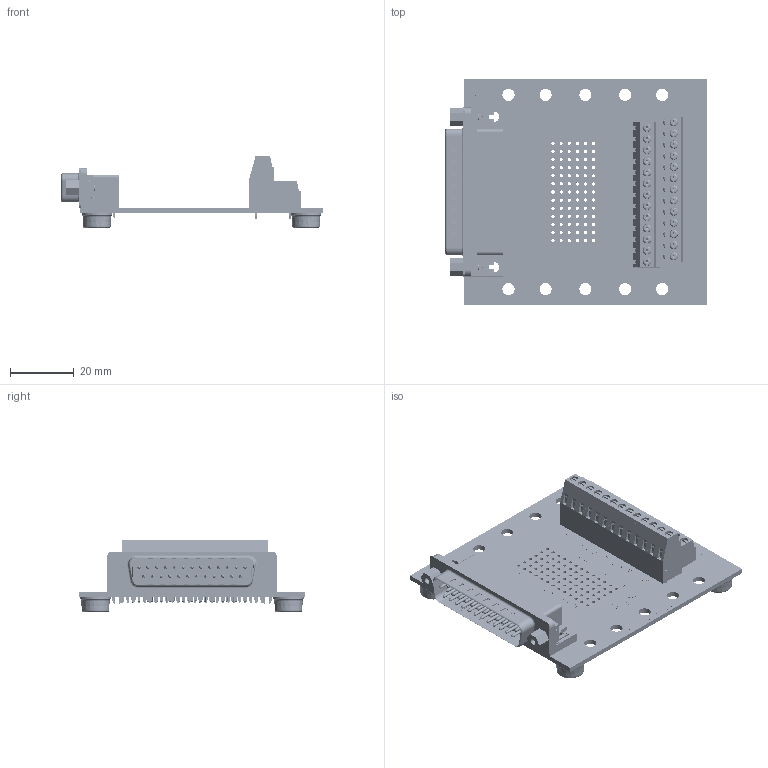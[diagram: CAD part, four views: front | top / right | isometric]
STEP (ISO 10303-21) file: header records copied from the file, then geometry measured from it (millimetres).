
FILE_DESCRIPTION (( 'STEP AP214' ), '1' );
FILE_NAME ('brkdd25m-r-ft_rev_a.step', '2019-04-29T01:05:32', ( '' ), ( '' ), 'SwSTEP 2.0', 'SolidWorks 2017', '' );
FILE_SCHEMA (( 'AUTOMOTIVE_DESIGN' ));
Length unit declared in the file: inch
Products named in the file (6): BRKDD25M Board; Male Right Angle 25 Pin; Screw Terminal Double Decker 4; Screw Terminal Double Decker 6; RubberFoot; brkdd25m-r-ft_rev_a
Assembly tree (11 placements, depth 2):
  brkdd25m-r-ft_rev_a
    BRKDD25M Board
    Male Right Angle 25 Pin
    RubberFoot  x4
    Screw Terminal Double Decker 4  x2
    Screw Terminal Double Decker 6  x3
Bounding box: 82.1 x 71.12 x 22.61 mm (x, y, z)
Volume: 14698.8 mm3; surface area: 39189 mm2
Topology: 68 solids, 252 shells, 12556 faces, 31973 edges, 19900 vertices
Faces by surface type: plane 5724, cylinder 3166, bspline 3058, torus 366, cone 242
Entity records: 549513 total; most frequent: CARTESIAN_POINT 223890, ORIENTED_EDGE 46670, DIRECTION 35227, EDGE_CURVE 23448, VERTEX_POINT 14698, LINE 13509, VECTOR 13509, AXIS2_PLACEMENT_3D 10859
